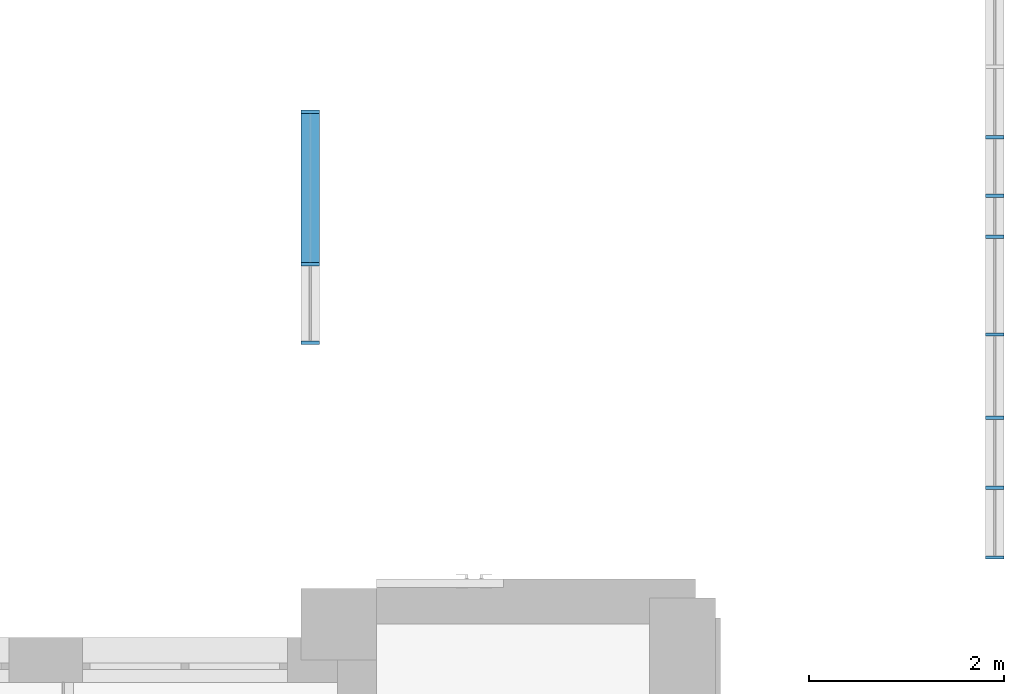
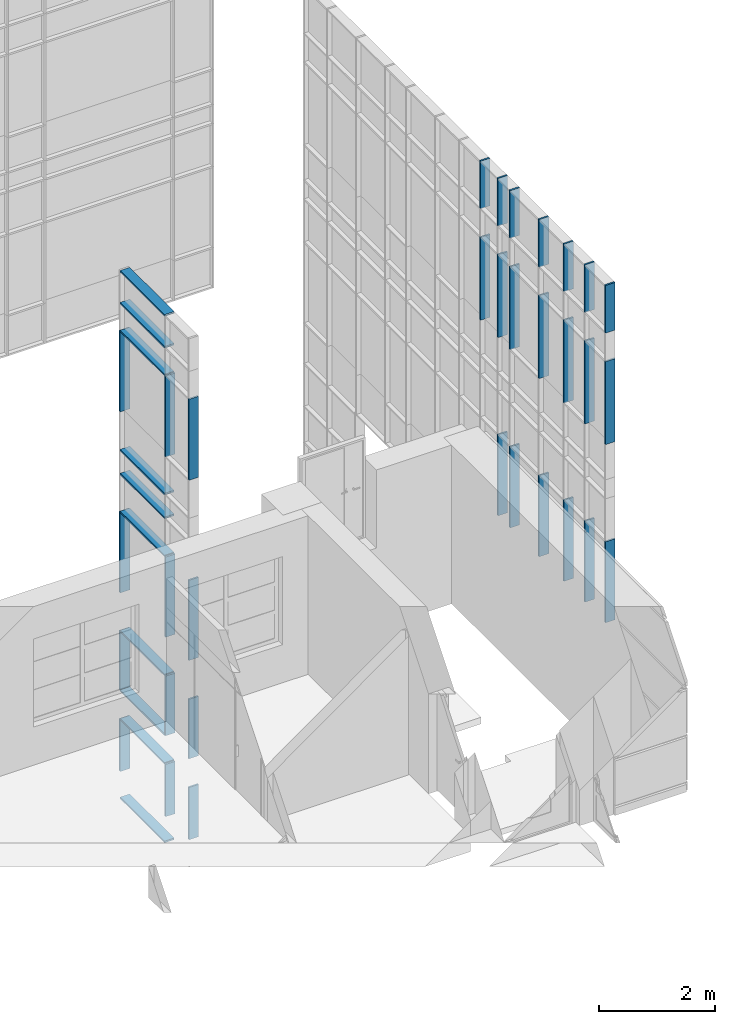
# One storey, part 5 of 73: 42 members, 2 elements without a shape of their own.
"""IFC2X3 building model written with IfcOpenShell, lengths in millimetres."""

from ifc_helpers import new_model, entity, si_unit, converted_unit, derived_unit, direction, frame, frame_2d, origin, origin_2d_with_axis, place, context, subcontext, project, spatial, rectangle, extrude, source, transform, mapped, material, type_object, type_shapes, element, aggregate, save


model = new_model("IFC2X3")

# Units and contexts
model_context = context("Model", 3, precision=0.01, world=origin(), true_north=direction((6.12303176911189e-17, 1.0)))
body_context = subcontext(model_context, "Body", "Model", "MODEL_VIEW")
ifc_project = project(units=[si_unit("LENGTHUNIT", "METRE", prefix="MILLI"), si_unit("AREAUNIT", "SQUARE_METRE"), si_unit("VOLUMEUNIT", "CUBIC_METRE"), converted_unit("PLANEANGLEUNIT", "DEGREE", entity("IfcRatioMeasure", 0.0174532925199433), si_unit("PLANEANGLEUNIT", "RADIAN"), dimensions=[0, 0, 0, 0, 0, 0, 0]), si_unit("MASSUNIT", "GRAM", prefix="KILO"), derived_unit("MASSDENSITYUNIT", [(si_unit("MASSUNIT", "GRAM", prefix="KILO"), 1), (si_unit("LENGTHUNIT", "METRE"), -3)]), si_unit("TIMEUNIT", "SECOND"), si_unit("FREQUENCYUNIT", "HERTZ"), si_unit("THERMODYNAMICTEMPERATUREUNIT", "DEGREE_CELSIUS"), derived_unit("THERMALTRANSMITTANCEUNIT", [(si_unit("MASSUNIT", "GRAM", prefix="KILO"), 1), (si_unit("THERMODYNAMICTEMPERATUREUNIT", "KELVIN"), -1), (si_unit("TIMEUNIT", "SECOND"), -3)]), derived_unit("VOLUMETRICFLOWRATEUNIT", [(si_unit("LENGTHUNIT", "METRE"), 3), (si_unit("TIMEUNIT", "SECOND"), -1)]), si_unit("ELECTRICCURRENTUNIT", "AMPERE"), si_unit("ELECTRICVOLTAGEUNIT", "VOLT"), si_unit("POWERUNIT", "WATT"), si_unit("FORCEUNIT", "NEWTON", prefix="KILO"), si_unit("ILLUMINANCEUNIT", "LUX"), si_unit("LUMINOUSFLUXUNIT", "LUMEN"), si_unit("LUMINOUSINTENSITYUNIT", "CANDELA"), derived_unit("USERDEFINED", [(si_unit("MASSUNIT", "GRAM", prefix="KILO"), -1), (si_unit("LENGTHUNIT", "METRE"), -2), (si_unit("TIMEUNIT", "SECOND"), 3), (si_unit("LUMINOUSFLUXUNIT", "LUMEN"), 1)]), derived_unit("LINEARVELOCITYUNIT", [(si_unit("LENGTHUNIT", "METRE"), 1), (si_unit("TIMEUNIT", "SECOND"), -1)]), si_unit("PRESSUREUNIT", "PASCAL"), derived_unit("USERDEFINED", [(si_unit("LENGTHUNIT", "METRE"), -2), (si_unit("MASSUNIT", "GRAM", prefix="KILO"), 1), (si_unit("TIMEUNIT", "SECOND"), -2)])], contexts=[model_context])

# Site, building, storey
site_placement = place(None, frame((-151.875543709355, 2715.0, 0.0)))
site = spatial("IfcSite", under=ifc_project, at=site_placement, Name="Surface", CompositionType="ELEMENT")
building_placement = place(site_placement, origin())
building = spatial("IfcBuilding", under=site, at=building_placement, CompositionType="ELEMENT")
storey_placement = place(building_placement, frame((0.0, 0.0, 6730.43000000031)))
storey = spatial("IfcBuildingStorey", under=building, at=storey_placement, Name="3 korrus", CompositionType="ELEMENT", Elevation=6730.43000000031)

# Curtain wall, members
curtain_wall_type = type_object("IfcCurtainWallType", Name="Curtain Wall:Klaasfassaad", PredefinedType="NOTDEFINED")
curtain_wall_1_placement = place(storey_placement, frame((0.0, 0.0, -6730.43000000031)))
curtain_wall_1 = element("IfcCurtainWall", 1, at=curtain_wall_1_placement, inside=storey, type_object=curtain_wall_type, Name="Curtain Wall:Klaasfassaad", ObjectType="Curtain Wall:Klaasfassaad")
ifc_material = material(Name="Steel/Aluminium")
member_type_1 = type_object("IfcMemberType", Name="35 x 190mm", PredefinedType="MEMBER")
shared_shape_1 = source(origin(), body_context, "Body", "SweptSolid", [
    extrude(rectangle(XDim=190.0, YDim=35.0, at=origin_2d_with_axis()), frame((-17.5, 0.0, -1000.0), z_axis=(0.0, 0.0, 1.0), x_axis=(0.0, -1.0, 0.0)), (0.0, 0.0, 1.0), 1000.0),
])
type_shapes(member_type_1, [shared_shape_1])
member_1_placement = place(storey_placement, frame((38701.6162681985, 13410.5004299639, 5074.47692901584), z_axis=(0.0, 0.0, 1.0), x_axis=(0.0, -1.0, 0.0)))
member_1 = element("IfcMember", 2, at=member_1_placement, type_object=member_type_1, material=ifc_material, Name="Rectangular Mullion:35 x 190mm", ObjectType="35 x 190mm", context=body_context, shape_type="MappedRepresentation", body=[
    mapped(shared_shape_1, transform((0.0, 0.0, 0.0), scale=1.0)),
])
member_type_2 = type_object("IfcMemberType", Name="35 x 190mm", PredefinedType="MEMBER")
shared_shape_2 = source(origin(), body_context, "Body", "SweptSolid", [
    extrude(rectangle(XDim=190.0, YDim=35.0, at=origin_2d_with_axis()), frame((-17.5, 0.0, -1740.0), z_axis=(0.0, 0.0, 1.0), x_axis=(0.0, -1.0, 0.0)), (0.0, 0.0, 1.0), 1740.0),
])
type_shapes(member_type_2, [shared_shape_2])
member_2_placement = place(storey_placement, frame((38701.6162681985, 13410.5004299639, 3474.47692901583), z_axis=(0.0, 0.0, 1.0), x_axis=(0.0, -1.0, 0.0)))
member_2 = element("IfcMember", 3, at=member_2_placement, type_object=member_type_2, material=ifc_material, Name="Rectangular Mullion:35 x 190mm", ObjectType="35 x 190mm", context=body_context, shape_type="MappedRepresentation", body=[
    mapped(shared_shape_2, transform((0.0, 0.0, 0.0), scale=1.0)),
])
member_type_3 = type_object("IfcMemberType", Name="35 x 190mm", PredefinedType="MEMBER")
shared_shape_3 = source(origin(), body_context, "Body", "SweptSolid", [
    extrude(rectangle(XDim=190.0, YDim=35.0, at=origin_2d_with_axis()), frame((-17.5, 0.0, -1700.31945955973), z_axis=(0.0, 0.0, 1.0), x_axis=(0.0, -1.0, 0.0)), (0.0, 0.0, 1.0), 1700.31945955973),
])
type_shapes(member_type_3, [shared_shape_3])
member_3_placement = place(storey_placement, frame((38701.6162681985, 13410.5004299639, -305.523070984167), z_axis=(0.0, 0.0, 1.0), x_axis=(0.0, -1.0, 0.0)))
member_3 = element("IfcMember", 4, at=member_3_placement, type_object=member_type_3, material=ifc_material, Name="Rectangular Mullion:35 x 190mm", ObjectType="35 x 190mm", context=body_context, shape_type="MappedRepresentation", body=[
    mapped(shared_shape_3, transform((0.0, 0.0, 0.0), scale=1.0)),
])
member_type_4 = type_object("IfcMemberType", Name="35 x 190mm", PredefinedType="MEMBER")
shared_shape_4 = source(origin(), body_context, "Body", "SweptSolid", [
    extrude(rectangle(XDim=190.0, YDim=35.0, at=origin_2d_with_axis()), frame((0.0, 0.0, -1000.0), z_axis=(0.0, 0.0, 1.0), x_axis=(0.0, -1.0, 0.0)), (0.0, 0.0, 1.0), 1000.0),
])
type_shapes(member_type_4, [shared_shape_4])
member_4_placement = place(storey_placement, frame((38701.6162681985, 14140.5004565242, 4074.47692901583), z_axis=(0.0, 0.0, -1.0), x_axis=(0.0, 1.0, 0.0)))
member_4 = element("IfcMember", 5, at=member_4_placement, type_object=member_type_4, material=ifc_material, Name="Rectangular Mullion:35 x 190mm", ObjectType="35 x 190mm", context=body_context, shape_type="MappedRepresentation", body=[
    mapped(shared_shape_4, transform((0.0, 0.0, 0.0), scale=1.0)),
])
member_5_placement = place(storey_placement, frame((38701.6162681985, 14860.5004565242, 4074.47692901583), z_axis=(0.0, 0.0, -1.0), x_axis=(0.0, 1.0, 0.0)))
member_5 = element("IfcMember", 6, at=member_5_placement, type_object=member_type_4, material=ifc_material, Name="Rectangular Mullion:35 x 190mm", ObjectType="35 x 190mm", context=body_context, shape_type="MappedRepresentation", body=[
    mapped(shared_shape_4, transform((0.0, 0.0, 0.0), scale=1.0)),
])
member_6_placement = place(storey_placement, frame((38701.6162681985, 15710.5004565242, 4074.47692901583), z_axis=(0.0, 0.0, -1.0), x_axis=(0.0, 1.0, 0.0)))
member_6 = element("IfcMember", 7, at=member_6_placement, type_object=member_type_4, material=ifc_material, Name="Rectangular Mullion:35 x 190mm", ObjectType="35 x 190mm", context=body_context, shape_type="MappedRepresentation", body=[
    mapped(shared_shape_4, transform((0.0, 0.0, 0.0), scale=1.0)),
])
member_7_placement = place(storey_placement, frame((38701.6162681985, 16710.5004565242, 4074.47692901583), z_axis=(0.0, 0.0, -1.0), x_axis=(0.0, 1.0, 0.0)))
member_7 = element("IfcMember", 8, at=member_7_placement, type_object=member_type_4, material=ifc_material, Name="Rectangular Mullion:35 x 190mm", ObjectType="35 x 190mm", context=body_context, shape_type="MappedRepresentation", body=[
    mapped(shared_shape_4, transform((0.0, 0.0, 0.0), scale=1.0)),
])
member_8_placement = place(storey_placement, frame((38701.6162681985, 17130.5004565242, 4074.47692901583), z_axis=(0.0, 0.0, -1.0), x_axis=(0.0, 1.0, 0.0)))
member_8 = element("IfcMember", 9, at=member_8_placement, type_object=member_type_4, material=ifc_material, Name="Rectangular Mullion:35 x 190mm", ObjectType="35 x 190mm", context=body_context, shape_type="MappedRepresentation", body=[
    mapped(shared_shape_4, transform((0.0, 0.0, 0.0), scale=1.0)),
])
member_9_placement = place(storey_placement, frame((38701.6162681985, 17730.5004565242, 4074.47692901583), z_axis=(0.0, 0.0, -1.0), x_axis=(0.0, 1.0, 0.0)))
member_9 = element("IfcMember", 10, at=member_9_placement, type_object=member_type_4, material=ifc_material, Name="Rectangular Mullion:35 x 190mm", ObjectType="35 x 190mm", context=body_context, shape_type="MappedRepresentation", body=[
    mapped(shared_shape_4, transform((0.0, 0.0, 0.0), scale=1.0)),
])
member_type_5 = type_object("IfcMemberType", Name="35 x 190mm", PredefinedType="MEMBER")
shared_shape_5 = source(origin(), body_context, "Body", "SweptSolid", [
    extrude(rectangle(XDim=190.0, YDim=35.0, at=origin_2d_with_axis()), frame((0.0, 0.0, -1740.0), z_axis=(0.0, 0.0, 1.0), x_axis=(0.0, -1.0, 0.0)), (0.0, 0.0, 1.0), 1740.0),
])
type_shapes(member_type_5, [shared_shape_5])
member_10_placement = place(storey_placement, frame((38701.6162681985, 14140.5004565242, 1734.47692901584), z_axis=(0.0, 0.0, -1.0), x_axis=(0.0, 1.0, 0.0)))
member_10 = element("IfcMember", 11, at=member_10_placement, type_object=member_type_5, material=ifc_material, Name="Rectangular Mullion:35 x 190mm", ObjectType="35 x 190mm", context=body_context, shape_type="MappedRepresentation", body=[
    mapped(shared_shape_5, transform((0.0, 0.0, 0.0), scale=1.0)),
])
member_11_placement = place(storey_placement, frame((38701.6162681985, 14860.5004565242, 1734.47692901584), z_axis=(0.0, 0.0, -1.0), x_axis=(0.0, 1.0, 0.0)))
member_11 = element("IfcMember", 12, at=member_11_placement, type_object=member_type_5, material=ifc_material, Name="Rectangular Mullion:35 x 190mm", ObjectType="35 x 190mm", context=body_context, shape_type="MappedRepresentation", body=[
    mapped(shared_shape_5, transform((0.0, 0.0, 0.0), scale=1.0)),
])
member_12_placement = place(storey_placement, frame((38701.6162681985, 15710.5004565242, 1734.47692901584), z_axis=(0.0, 0.0, -1.0), x_axis=(0.0, 1.0, 0.0)))
member_12 = element("IfcMember", 13, at=member_12_placement, type_object=member_type_5, material=ifc_material, Name="Rectangular Mullion:35 x 190mm", ObjectType="35 x 190mm", context=body_context, shape_type="MappedRepresentation", body=[
    mapped(shared_shape_5, transform((0.0, 0.0, 0.0), scale=1.0)),
])
member_13_placement = place(storey_placement, frame((38701.6162681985, 16710.5004565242, 1734.47692901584), z_axis=(0.0, 0.0, -1.0), x_axis=(0.0, 1.0, 0.0)))
member_13 = element("IfcMember", 14, at=member_13_placement, type_object=member_type_5, material=ifc_material, Name="Rectangular Mullion:35 x 190mm", ObjectType="35 x 190mm", context=body_context, shape_type="MappedRepresentation", body=[
    mapped(shared_shape_5, transform((0.0, 0.0, 0.0), scale=1.0)),
])
member_type_6 = type_object("IfcMemberType", Name="35 x 190mm", PredefinedType="MEMBER")
shared_shape_6 = source(origin(), body_context, "Body", "SweptSolid", [
    extrude(rectangle(XDim=190.0, YDim=35.0, at=origin_2d_with_axis()), frame((0.0, 0.0, -1740.0), z_axis=(0.0, 0.0, 1.0), x_axis=(0.0, -1.0, 0.0)), (0.0, 0.0, 1.0), 1740.0),
])
type_shapes(member_type_6, [shared_shape_6])
member_14_placement = place(storey_placement, frame((38701.6162681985, 17130.5004565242, 1734.47692901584), z_axis=(0.0, 0.0, -1.0), x_axis=(0.0, 1.0, 0.0)))
member_14 = element("IfcMember", 15, at=member_14_placement, type_object=member_type_6, material=ifc_material, Name="Rectangular Mullion:35 x 190mm", ObjectType="35 x 190mm", context=body_context, shape_type="MappedRepresentation", body=[
    mapped(shared_shape_6, transform((0.0, 0.0, 0.0), scale=1.0)),
])
member_15_placement = place(storey_placement, frame((38701.6162681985, 17730.5004565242, 1734.47692901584), z_axis=(0.0, 0.0, -1.0), x_axis=(0.0, 1.0, 0.0)))
member_15 = element("IfcMember", 16, at=member_15_placement, type_object=member_type_6, material=ifc_material, Name="Rectangular Mullion:35 x 190mm", ObjectType="35 x 190mm", context=body_context, shape_type="MappedRepresentation", body=[
    mapped(shared_shape_6, transform((0.0, 0.0, 0.0), scale=1.0)),
])
member_type_7 = type_object("IfcMemberType", Name="35 x 190mm", PredefinedType="MEMBER")
shared_shape_7 = source(origin(), body_context, "Body", "SweptSolid", [
    extrude(rectangle(XDim=190.0, YDim=35.0, at=origin_2d_with_axis()), frame((0.0, 0.0, -1700.31945955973), z_axis=(0.0, 0.0, 1.0), x_axis=(0.0, -1.0, 0.0)), (0.0, 0.0, 1.0), 1700.31945955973),
])
type_shapes(member_type_7, [shared_shape_7])
member_16_placement = place(storey_placement, frame((38701.6162681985, 14140.5004565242, -2005.8425305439), z_axis=(0.0, 0.0, -1.0), x_axis=(0.0, 1.0, 0.0)))
member_16 = element("IfcMember", 17, at=member_16_placement, type_object=member_type_7, material=ifc_material, Name="Rectangular Mullion:35 x 190mm", ObjectType="35 x 190mm", context=body_context, shape_type="MappedRepresentation", body=[
    mapped(shared_shape_7, transform((0.0, 0.0, 0.0), scale=1.0)),
])
member_17_placement = place(storey_placement, frame((38701.6162681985, 14860.5004565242, -2005.8425305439), z_axis=(0.0, 0.0, -1.0), x_axis=(0.0, 1.0, 0.0)))
member_17 = element("IfcMember", 18, at=member_17_placement, type_object=member_type_7, material=ifc_material, Name="Rectangular Mullion:35 x 190mm", ObjectType="35 x 190mm", context=body_context, shape_type="MappedRepresentation", body=[
    mapped(shared_shape_7, transform((0.0, 0.0, 0.0), scale=1.0)),
])
member_18_placement = place(storey_placement, frame((38701.6162681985, 15710.5004565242, -2005.8425305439), z_axis=(0.0, 0.0, -1.0), x_axis=(0.0, 1.0, 0.0)))
member_18 = element("IfcMember", 19, at=member_18_placement, type_object=member_type_7, material=ifc_material, Name="Rectangular Mullion:35 x 190mm", ObjectType="35 x 190mm", context=body_context, shape_type="MappedRepresentation", body=[
    mapped(shared_shape_7, transform((0.0, 0.0, 0.0), scale=1.0)),
])
member_19_placement = place(storey_placement, frame((38701.6162681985, 16710.5004565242, -2005.8425305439), z_axis=(0.0, 0.0, -1.0), x_axis=(0.0, 1.0, 0.0)))
member_19 = element("IfcMember", 20, at=member_19_placement, type_object=member_type_7, material=ifc_material, Name="Rectangular Mullion:35 x 190mm", ObjectType="35 x 190mm", context=body_context, shape_type="MappedRepresentation", body=[
    mapped(shared_shape_7, transform((0.0, 0.0, 0.0), scale=1.0)),
])
member_type_8 = type_object("IfcMemberType", Name="35 x 190mm", PredefinedType="MEMBER")
shared_shape_8 = source(origin(), body_context, "Body", "SweptSolid", [
    extrude(rectangle(XDim=190.0, YDim=35.0, at=origin_2d_with_axis()), frame((0.0, 0.0, -1700.31945955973), z_axis=(0.0, 0.0, 1.0), x_axis=(0.0, -1.0, 0.0)), (0.0, 0.0, 1.0), 1700.31945955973),
])
type_shapes(member_type_8, [shared_shape_8])
member_20_placement = place(storey_placement, frame((38701.6162681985, 17130.5004565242, -2005.8425305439), z_axis=(0.0, 0.0, -1.0), x_axis=(0.0, 1.0, 0.0)))
member_20 = element("IfcMember", 21, at=member_20_placement, type_object=member_type_8, material=ifc_material, Name="Rectangular Mullion:35 x 190mm", ObjectType="35 x 190mm", context=body_context, shape_type="MappedRepresentation", body=[
    mapped(shared_shape_8, transform((0.0, 0.0, 0.0), scale=1.0)),
])
aggregate(curtain_wall_1, [member_1, member_2, member_3, member_4, member_5, member_6, member_7, member_8, member_9, member_10, member_11, member_12, member_13, member_14, member_15, member_16, member_17, member_18, member_19, member_20])

curtain_wall_2_placement = place(storey_placement, frame((0.0, 0.0, -6730.43000000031)))
curtain_wall_2 = element("IfcCurtainWall", 22, at=curtain_wall_2_placement, inside=storey, type_object=curtain_wall_type, Name="Curtain Wall:Klaasfassaad", ObjectType="Curtain Wall:Klaasfassaad")
member_type_9 = type_object("IfcMemberType", Name="35 x 190mm", PredefinedType="MEMBER")
shared_shape_9 = source(origin(), body_context, "Body", "SweptSolid", [
    extrude(rectangle(XDim=190.0, YDim=35.0, at=origin_2d_with_axis()), frame((-17.5, 0.0, -1527.50000000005), z_axis=(0.0, 0.0, 1.0), x_axis=(0.0, -1.0, 0.0)), (0.0, 0.0, 1.0), 1527.50000000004),
])
type_shapes(member_type_9, [shared_shape_9])
member_21_placement = place(storey_placement, frame((31697.6162682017, 17974.954261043, -6015.42999999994), z_axis=(0.0, 1.0, 0.0), x_axis=(0.0, 0.0, -1.0)))
member_21 = element("IfcMember", 23, at=member_21_placement, type_object=member_type_9, material=ifc_material, Name="Rectangular Mullion:35 x 190mm", ObjectType="35 x 190mm", context=body_context, shape_type="MappedRepresentation", body=[
    mapped(shared_shape_9, transform((0.0, 0.0, 0.0), scale=1.0)),
])
member_type_10 = type_object("IfcMemberType", Name="35 x 190mm", PredefinedType="MEMBER")
shared_shape_10 = source(origin(), body_context, "Body", "SweptSolid", [
    extrude(rectangle(XDim=190.0, YDim=35.0, at=frame_2d((4.2632564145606e-13, 0.0), x_axis=(1.0, 0.0))), frame((-17.5, 0.0, -1527.50000000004), z_axis=(0.0, 0.0, 1.0), x_axis=(0.0, -1.0, 0.0)), (0.0, 0.0, 1.0), 1527.50000000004),
])
type_shapes(member_type_10, [shared_shape_10])
member_22_placement = place(storey_placement, frame((31697.6162682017, 16447.4542610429, 5074.47692901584), z_axis=(0.0, -1.0, 0.0), x_axis=(0.0, 0.0, 1.0)))
member_22 = element("IfcMember", 24, at=member_22_placement, type_object=member_type_10, material=ifc_material, Name="Rectangular Mullion:35 x 190mm", ObjectType="35 x 190mm", context=body_context, shape_type="MappedRepresentation", body=[
    mapped(shared_shape_10, transform((0.0, 0.0, 0.0), scale=1.0)),
])
member_type_11 = type_object("IfcMemberType", Name="35 x 190mm", PredefinedType="MEMBER")
shared_shape_11 = source(origin(), body_context, "Body", "SweptSolid", [
    extrude(rectangle(XDim=190.0, YDim=35.0, at=origin_2d_with_axis()), frame((-17.5, 0.0, -1700.0), z_axis=(0.0, 0.0, 1.0), x_axis=(0.0, -1.0, 0.0)), (0.0, 0.0, 1.0), 1700.0),
])
type_shapes(member_type_11, [shared_shape_11])
member_23_placement = place(storey_placement, frame((31697.6162682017, 18009.954261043, 3803.29487349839), z_axis=(0.0, 0.0, 1.0), x_axis=(0.0, 1.0, 0.0)))
member_23 = element("IfcMember", 25, at=member_23_placement, type_object=member_type_11, material=ifc_material, Name="Rectangular Mullion:35 x 190mm", ObjectType="35 x 190mm", context=body_context, shape_type="MappedRepresentation", body=[
    mapped(shared_shape_11, transform((0.0, 0.0, 0.0), scale=1.0)),
])
member_24_placement = place(storey_placement, frame((31697.6162682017, 18009.954261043, 3.29487349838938), z_axis=(0.0, 0.0, 1.0), x_axis=(0.0, 1.0, 0.0)))
member_24 = element("IfcMember", 26, at=member_24_placement, type_object=member_type_11, material=ifc_material, Name="Rectangular Mullion:35 x 190mm", ObjectType="35 x 190mm", context=body_context, shape_type="MappedRepresentation", body=[
    mapped(shared_shape_11, transform((0.0, 0.0, 0.0), scale=1.0)),
])
member_type_12 = type_object("IfcMemberType", Name="35 x 190mm", PredefinedType="MEMBER")
shared_shape_12 = source(origin(), body_context, "Body", "SweptSolid", [
    extrude(rectangle(XDim=190.0, YDim=35.0, at=origin_2d_with_axis()), frame((-17.5, 0.0, -1700.0), z_axis=(0.0, 0.0, 1.0), x_axis=(0.0, -1.0, 0.0)), (0.0, 0.0, 1.0), 1700.0),
])
type_shapes(member_type_12, [shared_shape_12])
member_25_placement = place(storey_placement, frame((31697.6162682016, 15610.0, 2103.29487349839), z_axis=(0.0, 0.0, -1.0), x_axis=(0.0, -1.0, 0.0)))
member_25 = element("IfcMember", 27, at=member_25_placement, type_object=member_type_12, material=ifc_material, Name="Rectangular Mullion:35 x 190mm", ObjectType="35 x 190mm", context=body_context, shape_type="MappedRepresentation", body=[
    mapped(shared_shape_12, transform((0.0, 0.0, 0.0), scale=1.0)),
])
member_type_13 = type_object("IfcMemberType", Name="35 x 190mm", PredefinedType="MEMBER")
shared_shape_13 = source(origin(), body_context, "Body", "SweptSolid", [
    extrude(rectangle(XDim=190.0, YDim=35.0, at=origin_2d_with_axis()), frame((-17.5, 0.0, -1682.5), z_axis=(0.0, 0.0, 1.0), x_axis=(0.0, -1.0, 0.0)), (0.0, 0.0, 1.0), 1682.5),
])
type_shapes(member_type_13, [shared_shape_13])
member_26_placement = place(storey_placement, frame((31697.6162682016, 15610.0, -1679.20512650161), z_axis=(0.0, 0.0, -1.0), x_axis=(0.0, -1.0, 0.0)))
member_26 = element("IfcMember", 28, at=member_26_placement, type_object=member_type_13, material=ifc_material, Name="Rectangular Mullion:35 x 190mm", ObjectType="35 x 190mm", context=body_context, shape_type="MappedRepresentation", body=[
    mapped(shared_shape_13, transform((0.0, 0.0, 0.0), scale=1.0)),
])
member_type_14 = type_object("IfcMemberType", Name="35 x 190mm", PredefinedType="MEMBER")
shared_shape_14 = source(origin(), body_context, "Body", "SweptSolid", [
    extrude(rectangle(XDim=190.0, YDim=35.0, at=origin_2d_with_axis()), frame((-17.5, 0.0, -1250.0), z_axis=(0.0, 0.0, 1.0), x_axis=(0.0, -1.0, 0.0)), (0.0, 0.0, 1.0), 1250.0),
])
type_shapes(member_type_14, [shared_shape_14])
member_27_placement = place(storey_placement, frame((31697.6162682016, 15610.0, -3746.70512650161), z_axis=(0.0, 0.0, -1.0), x_axis=(0.0, -1.0, 0.0)))
member_27 = element("IfcMember", 29, at=member_27_placement, type_object=member_type_14, material=ifc_material, Name="Rectangular Mullion:35 x 190mm", ObjectType="35 x 190mm", context=body_context, shape_type="MappedRepresentation", body=[
    mapped(shared_shape_14, transform((0.0, 0.0, 0.0), scale=1.0)),
])
member_type_15 = type_object("IfcMemberType", Name="35 x 190mm", PredefinedType="MEMBER")
shared_shape_15 = source(origin(), body_context, "Body", "SweptSolid", [
    extrude(rectangle(XDim=190.0, YDim=35.0, at=origin_2d_with_axis()), frame((0.0, 0.0, -1700.0), z_axis=(0.0, 0.0, 1.0), x_axis=(0.0, -1.0, 0.0)), (0.0, 0.0, 1.0), 1700.0),
])
type_shapes(member_type_15, [shared_shape_15])
member_28_placement = place(storey_placement, frame((31697.6162682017, 16429.9542610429, 2103.29487349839), z_axis=(0.0, 0.0, -1.0), x_axis=(0.0, -1.0, 0.0)))
member_28 = element("IfcMember", 30, at=member_28_placement, type_object=member_type_15, material=ifc_material, Name="Rectangular Mullion:35 x 190mm", ObjectType="35 x 190mm", context=body_context, shape_type="MappedRepresentation", body=[
    mapped(shared_shape_15, transform((0.0, 0.0, 0.0), scale=1.0)),
])
member_type_16 = type_object("IfcMemberType", Name="35 x 190mm", PredefinedType="MEMBER")
shared_shape_16 = source(origin(), body_context, "Body", "SweptSolid", [
    extrude(rectangle(XDim=190.0, YDim=35.0, at=frame_2d((-3.90798504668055e-13, 0.0), x_axis=(1.0, 0.0))), frame((0.0, 0.0, -1682.5), z_axis=(0.0, 0.0, 1.0), x_axis=(0.0, -1.0, 0.0)), (0.0, 0.0, 1.0), 1682.5),
])
type_shapes(member_type_16, [shared_shape_16])
member_29_placement = place(storey_placement, frame((31697.6162682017, 16429.9542610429, -1679.20512650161), z_axis=(0.0, 0.0, -1.0), x_axis=(0.0, -1.0, 0.0)))
member_29 = element("IfcMember", 31, at=member_29_placement, type_object=member_type_16, material=ifc_material, Name="Rectangular Mullion:35 x 190mm", ObjectType="35 x 190mm", context=body_context, shape_type="MappedRepresentation", body=[
    mapped(shared_shape_16, transform((0.0, 0.0, 0.0), scale=1.0)),
])
member_type_17 = type_object("IfcMemberType", Name="35 x 190mm", PredefinedType="MEMBER")
shared_shape_17 = source(origin(), body_context, "Body", "SweptSolid", [
    extrude(rectangle(XDim=190.0, YDim=35.0, at=origin_2d_with_axis()), frame((0.0, 0.0, -1250.0), z_axis=(0.0, 0.0, 1.0), x_axis=(0.0, -1.0, 0.0)), (0.0, 0.0, 1.0), 1250.0),
])
type_shapes(member_type_17, [shared_shape_17])
member_30_placement = place(storey_placement, frame((31697.6162682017, 16429.9542610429, -3746.70512650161), z_axis=(0.0, 0.0, -1.0), x_axis=(0.0, -1.0, 0.0)))
member_30 = element("IfcMember", 32, at=member_30_placement, type_object=member_type_17, material=ifc_material, Name="Rectangular Mullion:35 x 190mm", ObjectType="35 x 190mm", context=body_context, shape_type="MappedRepresentation", body=[
    mapped(shared_shape_17, transform((0.0, 0.0, 0.0), scale=1.0)),
])
member_type_18 = type_object("IfcMemberType", Name="35 x 190mm", PredefinedType="MEMBER")
shared_shape_18 = source(origin(), body_context, "Body", "SweptSolid", [
    extrude(rectangle(XDim=190.0, YDim=35.0, at=origin_2d_with_axis()), frame((-17.5, 0.0, -1250.0), z_axis=(0.0, 0.0, 1.0), x_axis=(0.0, -1.0, 0.0)), (0.0, 0.0, 1.0), 1250.0),
])
type_shapes(member_type_18, [shared_shape_18])
member_31_placement = place(storey_placement, frame((31697.6162682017, 18009.954261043, -2496.70512650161), z_axis=(0.0, 0.0, 1.0), x_axis=(0.0, 1.0, 0.0)))
member_31 = element("IfcMember", 33, at=member_31_placement, type_object=member_type_18, material=ifc_material, Name="Rectangular Mullion:35 x 190mm", ObjectType="35 x 190mm", context=body_context, shape_type="MappedRepresentation", body=[
    mapped(shared_shape_18, transform((0.0, 0.0, 0.0), scale=1.0)),
])
member_type_19 = type_object("IfcMemberType", Name="35 x 190mm", PredefinedType="MEMBER")
shared_shape_19 = source(origin(), body_context, "Body", "SweptSolid", [
    extrude(rectangle(XDim=190.0, YDim=35.0, at=origin_2d_with_axis()), frame((-17.5, 0.0, -1098.2509742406), z_axis=(0.0, 0.0, 1.0), x_axis=(0.0, -1.0, 0.0)), (0.0, 0.0, 1.0), 1098.2509742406),
])
type_shapes(member_type_19, [shared_shape_19])
member_32_placement = place(storey_placement, frame((31697.6162682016, 15610.0, -5446.70512650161), z_axis=(0.0, 0.0, -1.0), x_axis=(0.0, -1.0, 0.0)))
member_32 = element("IfcMember", 34, at=member_32_placement, type_object=member_type_19, material=ifc_material, Name="Rectangular Mullion:35 x 190mm", ObjectType="35 x 190mm", context=body_context, shape_type="MappedRepresentation", body=[
    mapped(shared_shape_19, transform((0.0, 0.0, 0.0), scale=1.0)),
])
member_type_20 = type_object("IfcMemberType", Name="35 x 190mm", PredefinedType="MEMBER")
shared_shape_20 = source(origin(), body_context, "Body", "SweptSolid", [
    extrude(rectangle(XDim=190.0, YDim=35.0, at=origin_2d_with_axis()), frame((0.0, 0.0, -1098.2509742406), z_axis=(0.0, 0.0, 1.0), x_axis=(0.0, -1.0, 0.0)), (0.0, 0.0, 1.0), 1098.2509742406),
])
type_shapes(member_type_20, [shared_shape_20])
member_33_placement = place(storey_placement, frame((31697.6162682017, 16429.9542610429, -5446.70512650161), z_axis=(0.0, 0.0, -1.0), x_axis=(0.0, -1.0, 0.0)))
member_33 = element("IfcMember", 35, at=member_33_placement, type_object=member_type_20, material=ifc_material, Name="Rectangular Mullion:35 x 190mm", ObjectType="35 x 190mm", context=body_context, shape_type="MappedRepresentation", body=[
    mapped(shared_shape_20, transform((0.0, 0.0, 0.0), scale=1.0)),
])
member_type_21 = type_object("IfcMemberType", Name="35 x 190mm", PredefinedType="MEMBER")
shared_shape_21 = source(origin(), body_context, "Body", "SweptSolid", [
    extrude(rectangle(XDim=190.0, YDim=35.0, at=origin_2d_with_axis()), frame((0.0, 0.0, -1527.50000000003), z_axis=(0.0, 0.0, 1.0), x_axis=(0.0, -1.0, 0.0)), (0.0, 0.0, 1.0), 1527.50000000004),
])
type_shapes(member_type_21, [shared_shape_21])
member_34_placement = place(storey_placement, frame((31697.6162682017, 16447.4542610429, 3803.29487349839), z_axis=(0.0, -1.0, 0.0), x_axis=(0.0, 0.0, 1.0)))
member_34 = element("IfcMember", 36, at=member_34_placement, type_object=member_type_21, material=ifc_material, Name="Rectangular Mullion:35 x 190mm", ObjectType="35 x 190mm", context=body_context, shape_type="MappedRepresentation", body=[
    mapped(shared_shape_21, transform((0.0, 0.0, 0.0), scale=1.0)),
])
member_type_22 = type_object("IfcMemberType", Name="35 x 190mm", PredefinedType="MEMBER")
shared_shape_22 = source(origin(), body_context, "Body", "SweptSolid", [
    extrude(rectangle(XDim=190.0, YDim=35.0, at=origin_2d_with_axis()), frame((0.0, 0.0, -1527.50000000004), z_axis=(0.0, 0.0, 1.0), x_axis=(0.0, -1.0, 0.0)), (0.0, 0.0, 1.0), 1527.50000000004),
])
type_shapes(member_type_22, [shared_shape_22])
member_35_placement = place(storey_placement, frame((31697.6162682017, 16447.4542610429, 4388.29487349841), z_axis=(0.0, -1.0, 0.0), x_axis=(0.0, 0.0, 1.0)))
member_35 = element("IfcMember", 37, at=member_35_placement, type_object=member_type_22, material=ifc_material, Name="Rectangular Mullion:35 x 190mm", ObjectType="35 x 190mm", context=body_context, shape_type="MappedRepresentation", body=[
    mapped(shared_shape_22, transform((0.0, 0.0, 0.0), scale=1.0)),
])
member_type_23 = type_object("IfcMemberType", Name="35 x 190mm", PredefinedType="MEMBER")
shared_shape_23 = source(origin(), body_context, "Body", "SweptSolid", [
    extrude(rectangle(XDim=190.0, YDim=35.0, at=origin_2d_with_axis()), frame((-17.5, 0.0, -1098.2509742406), z_axis=(0.0, 0.0, 1.0), x_axis=(0.0, -1.0, 0.0)), (0.0, 0.0, 1.0), 1098.2509742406),
])
type_shapes(member_type_23, [shared_shape_23])
member_36_placement = place(storey_placement, frame((31697.6162682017, 18009.954261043, -4348.45415226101), z_axis=(0.0, 0.0, 1.0), x_axis=(0.0, 1.0, 0.0)))
member_36 = element("IfcMember", 38, at=member_36_placement, type_object=member_type_23, material=ifc_material, Name="Rectangular Mullion:35 x 190mm", ObjectType="35 x 190mm", context=body_context, shape_type="MappedRepresentation", body=[
    mapped(shared_shape_23, transform((0.0, 0.0, 0.0), scale=1.0)),
])
member_type_24 = type_object("IfcMemberType", Name="35 x 190mm", PredefinedType="MEMBER")
shared_shape_24 = source(origin(), body_context, "Body", "SweptSolid", [
    extrude(rectangle(XDim=190.0, YDim=35.0, at=origin_2d_with_axis()), frame((0.0, 0.0, -1527.50000000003), z_axis=(0.0, 0.0, 1.0), x_axis=(0.0, -1.0, 0.0)), (0.0, 0.0, 1.0), 1527.50000000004),
])
type_shapes(member_type_24, [shared_shape_24])
member_37_placement = place(storey_placement, frame((31697.6162682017, 16447.4542610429, 803.294873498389), z_axis=(0.0, -1.0, 0.0), x_axis=(0.0, 0.0, 1.0)))
member_37 = element("IfcMember", 39, at=member_37_placement, type_object=member_type_24, material=ifc_material, Name="Rectangular Mullion:35 x 190mm", ObjectType="35 x 190mm", context=body_context, shape_type="MappedRepresentation", body=[
    mapped(shared_shape_24, transform((0.0, 0.0, 0.0), scale=1.0)),
])
member_type_25 = type_object("IfcMemberType", Name="35 x 190mm", PredefinedType="MEMBER")
shared_shape_25 = source(origin(), body_context, "Body", "SweptSolid", [
    extrude(rectangle(XDim=190.0, YDim=35.0, at=origin_2d_with_axis()), frame((0.0, 0.0, -1527.50000000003), z_axis=(0.0, 0.0, 1.0), x_axis=(0.0, -1.0, 0.0)), (0.0, 0.0, 1.0), 1527.50000000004),
])
type_shapes(member_type_25, [shared_shape_25])
member_38_placement = place(storey_placement, frame((31697.6162682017, 16447.4542610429, 3.29487349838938), z_axis=(0.0, -1.0, 0.0), x_axis=(0.0, 0.0, 1.0)))
member_38 = element("IfcMember", 40, at=member_38_placement, type_object=member_type_25, material=ifc_material, Name="Rectangular Mullion:35 x 190mm", ObjectType="35 x 190mm", context=body_context, shape_type="MappedRepresentation", body=[
    mapped(shared_shape_25, transform((0.0, 0.0, 0.0), scale=1.0)),
])
member_type_26 = type_object("IfcMemberType", Name="35 x 190mm", PredefinedType="MEMBER")
shared_shape_26 = source(origin(), body_context, "Body", "SweptSolid", [
    extrude(rectangle(XDim=190.0, YDim=35.0, at=origin_2d_with_axis()), frame((0.0, 0.0, -1527.50000000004), z_axis=(0.0, 0.0, 1.0), x_axis=(0.0, -1.0, 0.0)), (0.0, 0.0, 1.0), 1527.50000000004),
])
type_shapes(member_type_26, [shared_shape_26])
member_39_placement = place(storey_placement, frame((31697.6162682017, 16447.4542610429, -3746.70512650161), z_axis=(0.0, -1.0, 0.0), x_axis=(0.0, 0.0, 1.0)))
member_39 = element("IfcMember", 41, at=member_39_placement, type_object=member_type_26, material=ifc_material, Name="Rectangular Mullion:35 x 190mm", ObjectType="35 x 190mm", context=body_context, shape_type="MappedRepresentation", body=[
    mapped(shared_shape_26, transform((0.0, 0.0, 0.0), scale=1.0)),
])
member_type_27 = type_object("IfcMemberType", Name="35 x 190mm", PredefinedType="MEMBER")
shared_shape_27 = source(origin(), body_context, "Body", "SweptSolid", [
    extrude(rectangle(XDim=190.0, YDim=35.0, at=origin_2d_with_axis()), frame((0.0, 0.0, -1527.50000000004), z_axis=(0.0, 0.0, 1.0), x_axis=(0.0, -1.0, 0.0)), (0.0, 0.0, 1.0), 1527.50000000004),
])
type_shapes(member_type_27, [shared_shape_27])
member_40_placement = place(storey_placement, frame((31697.6162682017, 16447.4542610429, -4348.45415226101), z_axis=(0.0, -1.0, 0.0), x_axis=(0.0, 0.0, 1.0)))
member_40 = element("IfcMember", 42, at=member_40_placement, type_object=member_type_27, material=ifc_material, Name="Rectangular Mullion:35 x 190mm", ObjectType="35 x 190mm", context=body_context, shape_type="MappedRepresentation", body=[
    mapped(shared_shape_27, transform((0.0, 0.0, 0.0), scale=1.0)),
])
member_type_28 = type_object("IfcMemberType", Name="35 x 190mm", PredefinedType="MEMBER")
shared_shape_28 = source(origin(), body_context, "Body", "SweptSolid", [
    extrude(rectangle(XDim=190.0, YDim=35.0, at=origin_2d_with_axis()), frame((0.0, 0.0, -1527.50000000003), z_axis=(0.0, 0.0, 1.0), x_axis=(0.0, -1.0, 0.0)), (0.0, 0.0, 1.0), 1527.50000000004),
])
type_shapes(member_type_28, [shared_shape_28])
member_41_placement = place(storey_placement, frame((31697.6162682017, 16447.4542610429, 1303.29487349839), z_axis=(0.0, -1.0, 0.0), x_axis=(0.0, 0.0, 1.0)))
member_41 = element("IfcMember", 43, at=member_41_placement, type_object=member_type_28, material=ifc_material, Name="Rectangular Mullion:35 x 190mm", ObjectType="35 x 190mm", context=body_context, shape_type="MappedRepresentation", body=[
    mapped(shared_shape_28, transform((0.0, 0.0, 0.0), scale=1.0)),
])
member_type_29 = type_object("IfcMemberType", Name="35 x 190mm", PredefinedType="MEMBER")
shared_shape_29 = source(origin(), body_context, "Body", "SweptSolid", [
    extrude(rectangle(XDim=190.0, YDim=35.0, at=origin_2d_with_axis()), frame((0.0, 0.0, -1527.50000000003), z_axis=(0.0, 0.0, 1.0), x_axis=(0.0, -1.0, 0.0)), (0.0, 0.0, 1.0), 1527.50000000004),
])
type_shapes(member_type_29, [shared_shape_29])
member_42_placement = place(storey_placement, frame((31697.6162682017, 16447.4542610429, -2496.70512650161), z_axis=(0.0, -1.0, 0.0), x_axis=(0.0, 0.0, 1.0)))
member_42 = element("IfcMember", 44, at=member_42_placement, type_object=member_type_29, material=ifc_material, Name="Rectangular Mullion:35 x 190mm", ObjectType="35 x 190mm", context=body_context, shape_type="MappedRepresentation", body=[
    mapped(shared_shape_29, transform((0.0, 0.0, 0.0), scale=1.0)),
])
aggregate(curtain_wall_2, [member_21, member_22, member_23, member_25, member_24, member_26, member_27, member_28, member_29, member_30, member_31, member_32, member_33, member_34, member_35, member_36, member_37, member_38, member_39, member_40, member_41, member_42])

save(model, "model.ifc")
